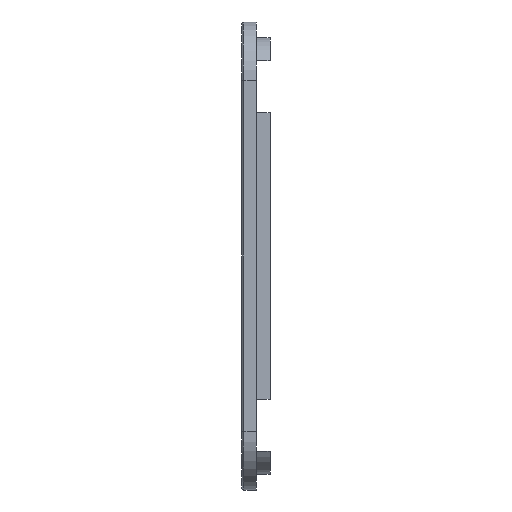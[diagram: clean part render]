
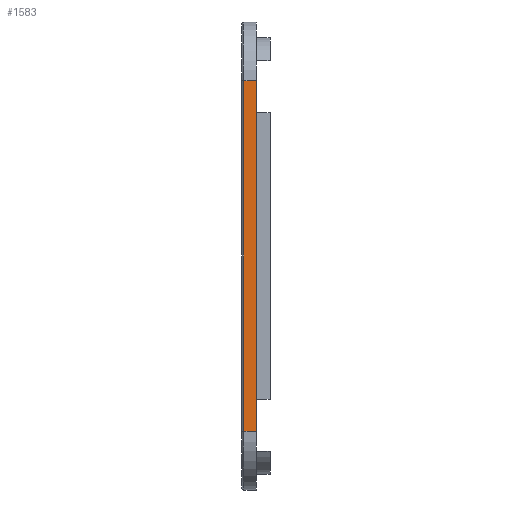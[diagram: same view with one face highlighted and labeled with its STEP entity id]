
A CAD part, left-side view. The second image highlights one B-rep face of the part: STEP entity #1583.
In plain terms, the highlighted planar face has unit normal (-1, 0, 0).
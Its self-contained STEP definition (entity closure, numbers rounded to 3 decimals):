
#44 = CYLINDRICAL_SURFACE('',#45,9.7);
#45 = AXIS2_PLACEMENT_3D('',#46,#47,#48);
#46 = CARTESIAN_POINT('',(-55.,25.5,73.));
#47 = DIRECTION('',(0.,1.,0.));
#48 = DIRECTION('',(0.,-0.,1.));
#126 = PLANE('',#127);
#127 = AXIS2_PLACEMENT_3D('',#128,#129,#130);
#128 = CARTESIAN_POINT('',(0.,25.5,44.));
#129 = DIRECTION('',(0.,1.,0.));
#130 = DIRECTION('',(0.,-0.,1.));
#143 = VERTEX_POINT('',#144);
#144 = CARTESIAN_POINT('',(-64.7,25.5,73.));
#170 = EDGE_CURVE('',#143,#171,#173,.T.);
#171 = VERTEX_POINT('',#172);
#172 = CARTESIAN_POINT('',(-64.7,27.55,73.));
#173 = SURFACE_CURVE('',#174,(#178,#185),.PCURVE_S1.);
#174 = LINE('',#175,#176);
#175 = CARTESIAN_POINT('',(-64.7,25.5,73.));
#176 = VECTOR('',#177,1.);
#177 = DIRECTION('',(0.,1.,0.));
#178 = PCURVE('',#44,#179);
#179 = DEFINITIONAL_REPRESENTATION('',(#180),#184);
#180 = LINE('',#181,#182);
#181 = CARTESIAN_POINT('',(-1.571,0.));
#182 = VECTOR('',#183,1.);
#183 = DIRECTION('',(-0.,1.));
#184 = ( GEOMETRIC_REPRESENTATION_CONTEXT(2) 
PARAMETRIC_REPRESENTATION_CONTEXT() REPRESENTATION_CONTEXT('2D SPACE',''
  ) );
#185 = PCURVE('',#186,#191);
#186 = PLANE('',#187);
#187 = AXIS2_PLACEMENT_3D('',#188,#189,#190);
#188 = CARTESIAN_POINT('',(-64.7,25.5,5.3));
#189 = DIRECTION('',(1.,0.,0.));
#190 = DIRECTION('',(0.,0.,1.));
#191 = DEFINITIONAL_REPRESENTATION('',(#192),#196);
#192 = LINE('',#193,#194);
#193 = CARTESIAN_POINT('',(67.7,0.));
#194 = VECTOR('',#195,1.);
#195 = DIRECTION('',(0.,-1.));
#196 = ( GEOMETRIC_REPRESENTATION_CONTEXT(2) 
PARAMETRIC_REPRESENTATION_CONTEXT() REPRESENTATION_CONTEXT('2D SPACE',''
  ) );
#418 = VERTEX_POINT('',#419);
#419 = CARTESIAN_POINT('',(-64.7,25.5,15.));
#434 = CYLINDRICAL_SURFACE('',#435,9.7);
#435 = AXIS2_PLACEMENT_3D('',#436,#437,#438);
#436 = CARTESIAN_POINT('',(-55.,25.5,15.));
#437 = DIRECTION('',(0.,1.,0.));
#438 = DIRECTION('',(0.,0.,-1.));
#446 = EDGE_CURVE('',#418,#143,#447,.T.);
#447 = SURFACE_CURVE('',#448,(#452,#459),.PCURVE_S1.);
#448 = LINE('',#449,#450);
#449 = CARTESIAN_POINT('',(-64.7,25.5,5.3));
#450 = VECTOR('',#451,1.);
#451 = DIRECTION('',(0.,0.,1.));
#452 = PCURVE('',#126,#453);
#453 = DEFINITIONAL_REPRESENTATION('',(#454),#458);
#454 = LINE('',#455,#456);
#455 = CARTESIAN_POINT('',(-38.7,-64.7));
#456 = VECTOR('',#457,1.);
#457 = DIRECTION('',(1.,0.));
#458 = ( GEOMETRIC_REPRESENTATION_CONTEXT(2) 
PARAMETRIC_REPRESENTATION_CONTEXT() REPRESENTATION_CONTEXT('2D SPACE',''
  ) );
#459 = PCURVE('',#186,#460);
#460 = DEFINITIONAL_REPRESENTATION('',(#461),#465);
#461 = LINE('',#462,#463);
#462 = CARTESIAN_POINT('',(0.,0.));
#463 = VECTOR('',#464,1.);
#464 = DIRECTION('',(1.,0.));
#465 = ( GEOMETRIC_REPRESENTATION_CONTEXT(2) 
PARAMETRIC_REPRESENTATION_CONTEXT() REPRESENTATION_CONTEXT('2D SPACE',''
  ) );
#1549 = CYLINDRICAL_SURFACE('',#1550,0.35);
#1550 = AXIS2_PLACEMENT_3D('',#1551,#1552,#1553);
#1551 = CARTESIAN_POINT('',(-64.35,27.55,15.));
#1552 = DIRECTION('',(0.,0.,1.));
#1553 = DIRECTION('',(-1.,-0.,0.));
#1583 = ADVANCED_FACE('',(#1584),#186,.F.);
#1584 = FACE_BOUND('',#1585,.F.);
#1585 = EDGE_LOOP('',(#1586,#1609,#1630,#1631));
#1586 = ORIENTED_EDGE('',*,*,#1587,.T.);
#1587 = EDGE_CURVE('',#418,#1588,#1590,.T.);
#1588 = VERTEX_POINT('',#1589);
#1589 = CARTESIAN_POINT('',(-64.7,27.55,15.));
#1590 = SURFACE_CURVE('',#1591,(#1595,#1602),.PCURVE_S1.);
#1591 = LINE('',#1592,#1593);
#1592 = CARTESIAN_POINT('',(-64.7,25.5,15.));
#1593 = VECTOR('',#1594,1.);
#1594 = DIRECTION('',(0.,1.,0.));
#1595 = PCURVE('',#186,#1596);
#1596 = DEFINITIONAL_REPRESENTATION('',(#1597),#1601);
#1597 = LINE('',#1598,#1599);
#1598 = CARTESIAN_POINT('',(9.7,0.));
#1599 = VECTOR('',#1600,1.);
#1600 = DIRECTION('',(0.,-1.));
#1601 = ( GEOMETRIC_REPRESENTATION_CONTEXT(2) 
PARAMETRIC_REPRESENTATION_CONTEXT() REPRESENTATION_CONTEXT('2D SPACE',''
  ) );
#1602 = PCURVE('',#434,#1603);
#1603 = DEFINITIONAL_REPRESENTATION('',(#1604),#1608);
#1604 = LINE('',#1605,#1606);
#1605 = CARTESIAN_POINT('',(1.571,0.));
#1606 = VECTOR('',#1607,1.);
#1607 = DIRECTION('',(0.,1.));
#1608 = ( GEOMETRIC_REPRESENTATION_CONTEXT(2) 
PARAMETRIC_REPRESENTATION_CONTEXT() REPRESENTATION_CONTEXT('2D SPACE',''
  ) );
#1609 = ORIENTED_EDGE('',*,*,#1610,.T.);
#1610 = EDGE_CURVE('',#1588,#171,#1611,.T.);
#1611 = SURFACE_CURVE('',#1612,(#1616,#1623),.PCURVE_S1.);
#1612 = LINE('',#1613,#1614);
#1613 = CARTESIAN_POINT('',(-64.7,27.55,15.));
#1614 = VECTOR('',#1615,1.);
#1615 = DIRECTION('',(0.,0.,1.));
#1616 = PCURVE('',#186,#1617);
#1617 = DEFINITIONAL_REPRESENTATION('',(#1618),#1622);
#1618 = LINE('',#1619,#1620);
#1619 = CARTESIAN_POINT('',(9.7,-2.05));
#1620 = VECTOR('',#1621,1.);
#1621 = DIRECTION('',(1.,0.));
#1622 = ( GEOMETRIC_REPRESENTATION_CONTEXT(2) 
PARAMETRIC_REPRESENTATION_CONTEXT() REPRESENTATION_CONTEXT('2D SPACE',''
  ) );
#1623 = PCURVE('',#1549,#1624);
#1624 = DEFINITIONAL_REPRESENTATION('',(#1625),#1629);
#1625 = LINE('',#1626,#1627);
#1626 = CARTESIAN_POINT('',(-0.,0.));
#1627 = VECTOR('',#1628,1.);
#1628 = DIRECTION('',(-0.,1.));
#1629 = ( GEOMETRIC_REPRESENTATION_CONTEXT(2) 
PARAMETRIC_REPRESENTATION_CONTEXT() REPRESENTATION_CONTEXT('2D SPACE',''
  ) );
#1630 = ORIENTED_EDGE('',*,*,#170,.F.);
#1631 = ORIENTED_EDGE('',*,*,#446,.F.);
